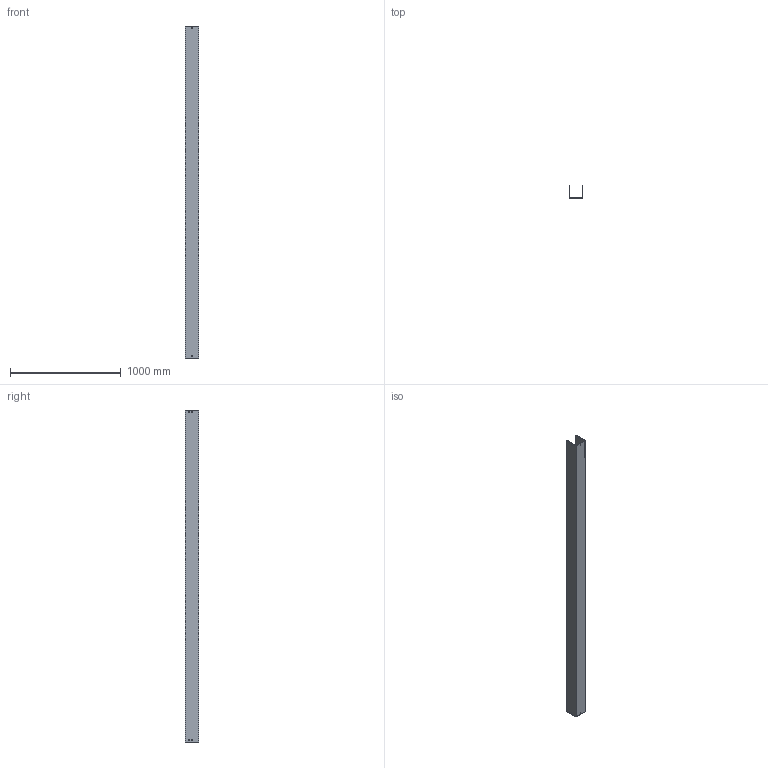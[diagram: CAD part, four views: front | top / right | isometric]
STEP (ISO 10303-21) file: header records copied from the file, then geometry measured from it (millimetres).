
FILE_DESCRIPTION (( 'STEP AP214' ), '1' );
FILE_NAME ('03B3J117.step', '2025-02-21T10:08:56', ( '' ), ( '' ), 'SwSTEP 2.0', 'SolidWorks 2023', '' );
FILE_SCHEMA (( 'AUTOMOTIVE_DESIGN' ));
Length unit declared in the file: millimetre
Products named in the file (1): 03B3J117
Bounding box: 117.5 x 117.5 x 3000 mm (x, y, z)
Volume: 3625380.5 mm3; surface area: 2096233.5 mm2
Topology: 1 solids, 1 shells, 50 faces, 144 edges, 96 vertices
Faces by surface type: plane 50
Entity records: 1671 total; most frequent: CARTESIAN_POINT 291, ORIENTED_EDGE 288, DIRECTION 246, EDGE_CURVE 144, LINE 144, VECTOR 144, VERTEX_POINT 96, EDGE_LOOP 70
